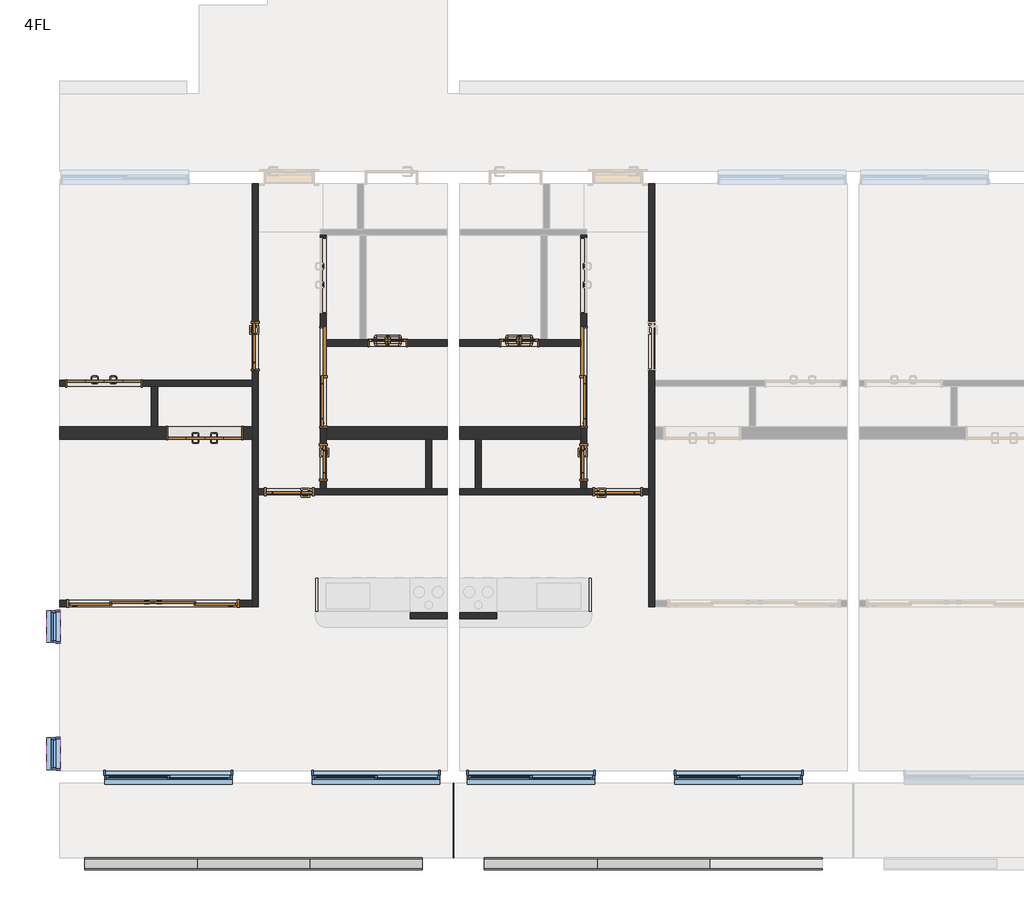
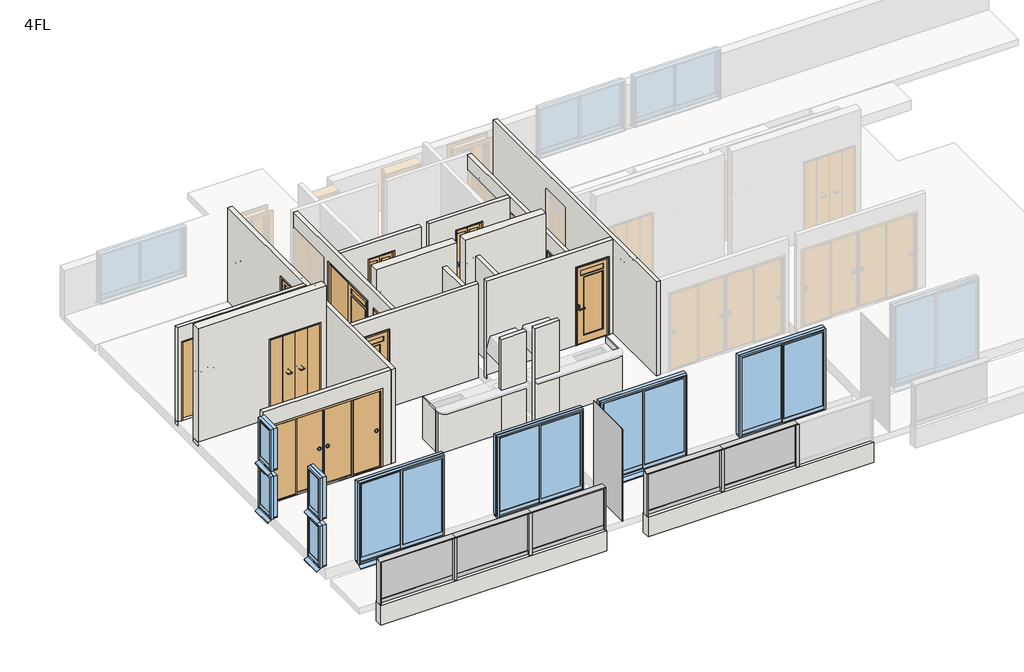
# One storey, part 1 of 3: 24 walls, 12 doors, 12 members, 8 windows, 6 plates.
"""IFC4 building model written with IfcOpenShell, lengths in millimetres."""

from ifc_helpers import new_model, si_unit, frame, origin, place, context, project, spatial, polyline, outline, extrude, faceted_brep, transform, mapped, element, save
from components import w1200h2000_6a144d60, w1200h2000_98cacc9b, w1600h2000_4c3c234a, w1600h2000_ca690e72, w2800h2000_670b855b, w600h2000_7f2747f4, w600h2000_6a266bef, w600h2000_94bb9c3c, w600h2000_8ea70a65, w800h2000_13e9f519, w800h2000_ccb03061, member_25x150_3f8205e2, member_25x150_f694351b, member_70x150_851c8a9b, plate_9f48129f, plate_365944b3, plate_cef4847d, window_2000x2000_f1ff98da, window_450x1000_e0a5e2da

model = new_model("IFC4")

# Units and contexts
model_context = context("Model", 3, world=origin())
ifc_project = project(units=[si_unit("LENGTHUNIT", "METRE", prefix="MILLI")], contexts=[model_context])

# Site, building, storey
site = spatial("IfcSite", under=ifc_project)
building = spatial("IfcBuilding", under=site)
storey = spatial("IfcBuildingStorey", under=building, Name="4FL", Elevation=10000.0)

# Doors
placement = place(None, origin())
w1200h2000_shape = w1200h2000_6a144d60(model_context)
element("IfcDoor", 1, ObjectType="木製折戸 : w1200h2000", at=placement, inside=storey, context=model_context, shape_type="MappedRepresentation", body=[
    mapped(w1200h2000_shape, transform((-10366.2187246, -9020.1171638, 10100.0), x_axis=(1.0, 0.0, 0.0), y_axis=(0.0, 1.0, 0.0), z_axis=(0.0, 0.0, 1.0))),
])
w1200h2000_2_shape = w1200h2000_98cacc9b(model_context)
element("IfcDoor", 2, ObjectType="木製折戸 : w1200h2000", at=placement, inside=storey, context=model_context, shape_type="MappedRepresentation", body=[
    mapped(w1200h2000_2_shape, transform((-8741.2187246, -9820.1171638, 10100.0), x_axis=(-1.0, 0.0, 0.0), y_axis=(0.0, -1.0, 0.0), z_axis=(0.0, 0.0, 1.0))),
])
w1600h2000_shape = w1600h2000_4c3c234a(model_context)
element("IfcDoor", 3, ObjectType="片引戸CL2017 : w1600h2000", at=placement, inside=storey, context=model_context, shape_type="MappedRepresentation", body=[
    mapped(w1600h2000_shape, transform((-6828.7187246, -8920.1171638, 10100.0), x_axis=(0.0, -1.0, 0.0), y_axis=(1.0, 0.0, 0.0), z_axis=(0.0, 0.0, 1.0))),
])
w1600h2000_2_shape = w1600h2000_ca690e72(model_context)
element("IfcDoor", 4, ObjectType="片引戸CL2017 : w1600h2000", at=placement, inside=storey, context=model_context, shape_type="MappedRepresentation", body=[
    mapped(w1600h2000_2_shape, transform((-2628.7187246, -8920.1171638, 10100.0), x_axis=(0.0, -1.0, 0.0), y_axis=(1.0, 0.0, 0.0), z_axis=(0.0, 0.0, 1.0))),
])
w2800h2000_shape = w2800h2000_670b855b(model_context)
element("IfcDoor", 5, ObjectType="引違い 4 枚 2 溝_襖 : w2800h2000", at=placement, inside=storey, context=model_context, shape_type="MappedRepresentation", body=[
    mapped(w2800h2000_shape, transform((-9584.2542286, -12570.1171638, 10100.0), x_axis=(-1.0, 0.0, 0.0), y_axis=(0.0, -1.0, 0.0), z_axis=(0.0, 0.0, 1.0))),
])
w600h2000_shape = w600h2000_7f2747f4(model_context)
element("IfcDoor", 6, ObjectType="片開戸CL2058 : w600h2000", at=placement, inside=storey, context=model_context, shape_type="MappedRepresentation", body=[
    mapped(w600h2000_shape, transform((-6828.7187246, -10295.1171638, 10100.0), x_axis=(0.0, -1.0, 0.0), y_axis=(1.0, 0.0, 0.0), z_axis=(0.0, 0.0, 1.0))),
])
w600h2000_2_shape = w600h2000_6a266bef(model_context)
element("IfcDoor", 7, ObjectType="浴室折戸 : w600h2000", at=placement, inside=storey, context=model_context, shape_type="MappedRepresentation", body=[
    mapped(w600h2000_2_shape, transform((-5788.7187246, -8370.1171638, 10100.0), x_axis=(1.0, 0.0, 0.0), y_axis=(0.0, 1.0, 0.0), z_axis=(0.0, 0.0, 1.0))),
])
w600h2000_3_shape = w600h2000_94bb9c3c(model_context)
element("IfcDoor", 8, ObjectType="浴室折戸 : w600h2000", at=placement, inside=storey, context=model_context, shape_type="MappedRepresentation", body=[
    mapped(w600h2000_3_shape, transform((-3668.7187246, -8370.1171638, 10100.0), x_axis=(-1.0, 0.0, 0.0), y_axis=(0.0, -1.0, 0.0), z_axis=(0.0, 0.0, 1.0))),
])
w600h2000_4_shape = w600h2000_8ea70a65(model_context)
element("IfcDoor", 9, ObjectType="片開戸CL2058 : w600h2000", at=placement, inside=storey, context=model_context, shape_type="MappedRepresentation", body=[
    mapped(w600h2000_4_shape, transform((-2628.7187246, -10295.1171638, 10100.0), x_axis=(0.0, -1.0, 0.0), y_axis=(1.0, 0.0, 0.0), z_axis=(0.0, 0.0, 1.0))),
])
w800h2000_shape = w800h2000_13e9f519(model_context)
element("IfcDoor", 10, ObjectType="片開戸CL2058 : w800h2000", at=placement, inside=storey, context=model_context, shape_type="MappedRepresentation", body=[
    mapped(w800h2000_shape, transform((-7928.7187246, -8420.1171638, 10100.0), x_axis=(0.0, -1.0, 0.0), y_axis=(1.0, 0.0, 0.0), z_axis=(0.0, 0.0, 1.0))),
])
element("IfcDoor", 11, ObjectType="片開戸CL2058 : w800h2000", at=placement, inside=storey, context=model_context, shape_type="MappedRepresentation", body=[
    mapped(w800h2000_shape, transform((-2078.7187246, -10770.1171638, 10100.0), x_axis=(1.0, 0.0, 0.0), y_axis=(0.0, 1.0, 0.0), z_axis=(0.0, 0.0, 1.0))),
])
w800h2000_2_shape = w800h2000_ccb03061(model_context)
element("IfcDoor", 12, ObjectType="片開戸CL2058 : w800h2000", at=placement, inside=storey, context=model_context, shape_type="MappedRepresentation", body=[
    mapped(w800h2000_2_shape, transform((-7378.7187246, -10770.1171638, 10100.0), x_axis=(-1.0, 0.0, 0.0), y_axis=(0.0, -1.0, 0.0), z_axis=(0.0, 0.0, 1.0))),
])

# Members
member_25x150_shape = member_25x150_3f8205e2(model_context)
element("IfcMember", 13, ObjectType="長方形のマリオン : 25x150", at=placement, inside=storey, context=model_context, shape_type="MappedRepresentation", body=[
    mapped(member_25x150_shape, transform((-5228.7187246, -16770.1171638, 10000.0), x_axis=(1.0, 0.0, 0.0), y_axis=(0.0, -1.0, 0.0), z_axis=(0.0, 0.0, -1.0))),
])
element("IfcMember", 14, ObjectType="長方形のマリオン : 25x150", at=placement, inside=storey, context=model_context, shape_type="MappedRepresentation", body=[
    mapped(member_25x150_shape, transform((-10678.7187246, -16770.1171638, 11075.0), x_axis=(-1.0, 0.0, 0.0), y_axis=(0.0, -1.0, 0.0), z_axis=(0.0, 0.0, 1.0))),
])
element("IfcMember", 15, ObjectType="長方形のマリオン : 25x150", at=placement, inside=storey, context=model_context, shape_type="MappedRepresentation", body=[
    mapped(member_25x150_shape, transform((-4228.7187246, -16770.1171638, 11075.0), x_axis=(-1.0, 0.0, 0.0), y_axis=(0.0, -1.0, 0.0), z_axis=(0.0, 0.0, 1.0))),
])
member_25x150_2_shape = member_25x150_f694351b(model_context)
element("IfcMember", 16, ObjectType="長方形のマリオン : 25x150", at=placement, inside=storey, context=model_context, shape_type="MappedRepresentation", body=[
    mapped(member_25x150_2_shape, transform((-5228.7187246, -16770.1171638, 11100.0), x_axis=(0.0, 0.0, 1.0), y_axis=(0.0, -1.0, 0.0), z_axis=(1.0, 0.0, 0.0))),
])
element("IfcMember", 17, ObjectType="長方形のマリオン : 25x150", at=placement, inside=storey, context=model_context, shape_type="MappedRepresentation", body=[
    mapped(member_25x150_2_shape, transform((-8862.052058, -16770.1171638, 11100.0), x_axis=(0.0, 0.0, 1.0), y_axis=(0.0, -1.0, 0.0), z_axis=(1.0, 0.0, 0.0))),
])
element("IfcMember", 18, ObjectType="長方形のマリオン : 25x150", at=placement, inside=storey, context=model_context, shape_type="MappedRepresentation", body=[
    mapped(member_25x150_2_shape, transform((-2412.052058, -16770.1171638, 11100.0), x_axis=(0.0, 0.0, 1.0), y_axis=(0.0, -1.0, 0.0), z_axis=(1.0, 0.0, 0.0))),
])
element("IfcMember", 19, ObjectType="長方形のマリオン : 25x150", at=placement, inside=storey, context=model_context, shape_type="MappedRepresentation", body=[
    mapped(member_25x150_2_shape, transform((-7045.3853913, -16770.1171638, 11100.0), x_axis=(0.0, 0.0, 1.0), y_axis=(0.0, -1.0, 0.0), z_axis=(1.0, 0.0, 0.0))),
])
element("IfcMember", 20, ObjectType="長方形のマリオン : 25x150", at=placement, inside=storey, context=model_context, shape_type="MappedRepresentation", body=[
    mapped(member_25x150_2_shape, transform((-595.3853913, -16770.1171638, 11100.0), x_axis=(0.0, 0.0, 1.0), y_axis=(0.0, -1.0, 0.0), z_axis=(1.0, 0.0, 0.0))),
])
member_70x150_shape = member_70x150_851c8a9b(model_context)
element("IfcMember", 21, ObjectType="長方形のマリオン : 70x150", at=placement, inside=storey, context=model_context, shape_type="MappedRepresentation", body=[
    mapped(member_70x150_shape, transform((-8862.052058, -16770.1171638, 10000.0), x_axis=(1.0, 0.0, 0.0), y_axis=(0.0, -1.0, 0.0), z_axis=(0.0, 0.0, -1.0))),
])
element("IfcMember", 22, ObjectType="長方形のマリオン : 70x150", at=placement, inside=storey, context=model_context, shape_type="MappedRepresentation", body=[
    mapped(member_70x150_shape, transform((-7045.3853913, -16770.1171638, 10000.0), x_axis=(1.0, 0.0, 0.0), y_axis=(0.0, -1.0, 0.0), z_axis=(0.0, 0.0, -1.0))),
])
element("IfcMember", 23, ObjectType="長方形のマリオン : 70x150", at=placement, inside=storey, context=model_context, shape_type="MappedRepresentation", body=[
    mapped(member_70x150_shape, transform((-2412.052058, -16770.1171638, 10000.0), x_axis=(1.0, 0.0, 0.0), y_axis=(0.0, -1.0, 0.0), z_axis=(0.0, 0.0, -1.0))),
])
element("IfcMember", 24, ObjectType="長方形のマリオン : 70x150", at=placement, inside=storey, context=model_context, shape_type="MappedRepresentation", body=[
    mapped(member_70x150_shape, transform((-595.3853913, -16770.1171638, 10000.0), x_axis=(1.0, 0.0, 0.0), y_axis=(0.0, -1.0, 0.0), z_axis=(0.0, 0.0, -1.0))),
])

# Plates
plate_shape = plate_9f48129f(model_context)
element("IfcPlate", 25, ObjectType="r パネル FIX 下框付 : 框 H100", at=placement, inside=storey, context=model_context, shape_type="MappedRepresentation", body=[
    mapped(plate_shape, transform((-9775.3853913, -16770.1171638, 10000.0), x_axis=(1.0, 0.0, 0.0), y_axis=(0.0, 1.0, 0.0), z_axis=(0.0, 0.0, 1.0))),
])
element("IfcPlate", 26, ObjectType="r パネル FIX 下框付 : 框 H100", at=placement, inside=storey, context=model_context, shape_type="MappedRepresentation", body=[
    mapped(plate_shape, transform((-6132.052058, -16770.1171638, 10000.0), x_axis=(1.0, 0.0, 0.0), y_axis=(0.0, 1.0, 0.0), z_axis=(0.0, 0.0, 1.0))),
])
element("IfcPlate", 27, ObjectType="r パネル FIX 下框付 : 框 H100", at=placement, inside=storey, context=model_context, shape_type="MappedRepresentation", body=[
    mapped(plate_shape, transform((-3325.3853913, -16770.1171638, 10000.0), x_axis=(1.0, 0.0, 0.0), y_axis=(0.0, 1.0, 0.0), z_axis=(0.0, 0.0, 1.0))),
])
plate_2_shape = plate_365944b3(model_context)
element("IfcPlate", 28, ObjectType="r パネル FIX 下框付 : 框 H100", at=placement, inside=storey, context=model_context, shape_type="MappedRepresentation", body=[
    mapped(plate_2_shape, transform((-7953.7187246, -16770.1171638, 10000.0), x_axis=(1.0, 0.0, 0.0), y_axis=(0.0, 1.0, 0.0), z_axis=(0.0, 0.0, 1.0))),
])
element("IfcPlate", 29, ObjectType="r パネル FIX 下框付 : 框 H100", at=placement, inside=storey, context=model_context, shape_type="MappedRepresentation", body=[
    mapped(plate_2_shape, transform((-1503.7187246, -16770.1171638, 10000.0), x_axis=(1.0, 0.0, 0.0), y_axis=(0.0, 1.0, 0.0), z_axis=(0.0, 0.0, 1.0))),
])
plate_3_shape = plate_cef4847d(model_context)
element("IfcPlate", 30, ObjectType="システム パネル : 標準", at=placement, inside=storey, context=model_context, shape_type="MappedRepresentation", body=[
    mapped(plate_3_shape, transform((-4728.7187246, -16070.1171638, 9950.0), x_axis=(0.0, -1.0, 0.0), y_axis=(1.0, 0.0, 0.0), z_axis=(0.0, 0.0, 1.0))),
])

# Walls
element("IfcWall", 31, ObjectType="(R)RC200", at=placement, inside=storey, context=model_context, shape_type="Brep", body=[
    faceted_brep([(-11078.7187246, -9920.1171638, 10000.0), (-7978.7187246, -9920.1171638, 10000.0), (-7978.7187246, -9920.1171638, 13000.0), (-11078.7187246, -9920.1171638, 13000.0), (-9361.2187246, -9920.1171638, 12120.0), (-8121.2187246, -9920.1171638, 12120.0), (-8121.2187246, -9920.1171638, 10100.0), (-9361.2187246, -9920.1171638, 10100.0), (-11078.7187246, -9720.1171638, 10000.0), (-11078.7187246, -9720.1171638, 13000.0), (-7978.7187246, -9720.1171638, 13000.0), (-7978.7187246, -9720.1171638, 10000.0), (-9503.7187246, -9720.1171638, 10000.0), (-9603.7187246, -9720.1171638, 10000.0), (-9361.2187246, -9720.1171638, 12120.0), (-9361.2187246, -9720.1171638, 10100.0), (-8121.2187246, -9720.1171638, 10100.0), (-8121.2187246, -9720.1171638, 12120.0)], [[[0, 1, 2, 3], [4, 5, 6, 7]], [[8, 9, 10, 11, 12, 13], [14, 15, 16, 17]], [[1, 0, 8, 13, 12, 11]], [[3, 2, 10, 9]], [[2, 1, 11, 10]], [[15, 14, 4, 7]], [[16, 15, 7, 6]], [[17, 16, 6, 5]], [[14, 17, 5, 4]], [[0, 3, 9, 8]]]),
])
element("IfcWall", 32, ObjectType="(R)RC200", at=placement, inside=storey, context=model_context, shape_type="Brep", body=[
    faceted_brep([(-6778.7187246, -9920.1171638, 10000.0), (-5178.7187246, -9920.1171638, 10000.0), (-5078.7187246, -9920.1171638, 10000.0), (-4828.7187246, -9920.1171638, 10000.0), (-4828.7187246, -9920.1171638, 13000.0), (-6778.7187246, -9920.1171638, 13000.0), (-6778.7187246, -9720.1171638, 10000.0), (-6778.7187246, -9720.1171638, 13000.0), (-4828.7187246, -9720.1171638, 13000.0), (-4828.7187246, -9720.1171638, 10000.0)], [[[0, 1, 2, 3, 4, 5]], [[6, 7, 8, 9]], [[3, 2, 1, 0, 6, 9]], [[5, 4, 8, 7]], [[0, 5, 7, 6]], [[4, 3, 9, 8]]]),
])
element("IfcWall", 33, ObjectType="(R)RC200", at=placement, inside=storey, context=model_context, shape_type="Brep", body=[
    faceted_brep([(-2678.7187246, -9720.1171638, 10000.0), (-4628.7187246, -9720.1171638, 10000.0), (-4628.7187246, -9720.1171638, 13000.0), (-2678.7187246, -9720.1171638, 13000.0), (-2678.7187246, -9920.1171638, 10000.0), (-2678.7187246, -9920.1171638, 13000.0), (-4628.7187246, -9920.1171638, 13000.0), (-4628.7187246, -9920.1171638, 10000.0), (-4378.7187246, -9920.1171638, 10000.0), (-4278.7187246, -9920.1171638, 10000.0)], [[[0, 1, 2, 3]], [[4, 5, 6, 7, 8, 9]], [[1, 0, 4, 9, 8, 7]], [[3, 2, 6, 5]], [[0, 3, 5, 4]], [[2, 1, 7, 6]]]),
])
element("IfcWall", 34, ObjectType="(R)RC200", at=placement, inside=storey, context=model_context, shape_type="SweptSolid", body=[
    extrude(outline(polyline([(-5228.7187246, -16870.1171638), (-10678.7187246, -16870.1171638), (-10678.7187246, -16670.1171638), (-5228.7187246, -16670.1171638), (-5228.7187246, -16870.1171638)])), frame((0.0, 0.0, 9500.0), z_axis=(0.0, 0.0, 1.0), x_axis=(1.0, 0.0, 0.0)), (0.0, 0.0, 1.0), 500.0),
])
element("IfcWall", 35, ObjectType="(R)RC200", at=placement, inside=storey, context=model_context, shape_type="SweptSolid", body=[
    extrude(outline(polyline([(1221.2812754, -16870.1171638), (-4228.7187246, -16870.1171638), (-4228.7187246, -16670.1171638), (1221.2812754, -16670.1171638), (1221.2812754, -16870.1171638)])), frame((0.0, 0.0, 9500.0), z_axis=(0.0, 0.0, 1.0), x_axis=(1.0, 0.0, 0.0)), (0.0, 0.0, 1.0), 500.0),
])
element("IfcWall", 36, ObjectType="(F)30", at=placement, inside=storey, context=model_context, shape_type="SweptSolid", body=[
    extrude(outline(polyline([(-6951.1124404, -12720.1171638), (-6951.1124404, -12165.1171638), (-6921.1124404, -12165.1171638), (-6921.1124404, -12720.1171638), (-6951.1124404, -12720.1171638)])), frame((0.0, 0.0, 10100.0), z_axis=(0.0, 0.0, 1.0), x_axis=(1.0, 0.0, 0.0)), (0.0, 0.0, 1.0), 1060.0),
])
element("IfcWall", 37, ObjectType="(F)30", at=placement, inside=storey, context=model_context, shape_type="SweptSolid", body=[
    extrude(outline(polyline([(-2536.3250089, -12720.1171638), (-2536.3250089, -12165.1171638), (-2506.3250089, -12165.1171638), (-2506.3250089, -12720.1171638), (-2536.3250089, -12720.1171638)])), frame((0.0, 0.0, 10100.0), z_axis=(0.0, 0.0, 1.0), x_axis=(1.0, 0.0, 0.0)), (0.0, 0.0, 1.0), 1060.0),
])
element("IfcWall", 38, ObjectType="(L1)LGS100", at=placement, inside=storey, context=model_context, shape_type="Brep", body=[
    faceted_brep([(-11078.7187246, -9070.1171638, 10000.0), (-9603.7187246, -9070.1171638, 10000.0), (-9503.7187246, -9070.1171638, 10000.0), (-7978.7187246, -9070.1171638, 10000.0), (-7978.7187246, -9070.1171638, 12500.0), (-9503.7187246, -9070.1171638, 12500.0), (-9603.7187246, -9070.1171638, 12500.0), (-11078.7187246, -9070.1171638, 12500.0), (-9746.2187246, -9070.1171638, 12120.0), (-9746.2187246, -9070.1171638, 10100.0), (-10986.2187246, -9070.1171638, 10100.0), (-10986.2187246, -9070.1171638, 12120.0), (-7978.7187246, -8970.1171638, 10000.0), (-11078.7187246, -8970.1171638, 10000.0), (-11078.7187246, -8970.1171638, 12500.0), (-7978.7187246, -8970.1171638, 12500.0), (-9746.2187246, -8970.1171638, 10100.0), (-9746.2187246, -8970.1171638, 12120.0), (-10986.2187246, -8970.1171638, 12120.0), (-10986.2187246, -8970.1171638, 10100.0)], [[[0, 1, 2, 3, 4, 5, 6, 7], [8, 9, 10, 11]], [[12, 13, 14, 15], [16, 17, 18, 19]], [[3, 2, 1, 0, 13, 12]], [[7, 6, 5, 4, 15, 14]], [[4, 3, 12, 15]], [[8, 17, 16, 9]], [[9, 16, 19, 10]], [[17, 8, 11, 18]], [[18, 11, 10, 19]], [[0, 7, 14, 13]]]),
])
element("IfcWall", 39, ObjectType="(L1)LGS100", at=placement, inside=storey, context=model_context, shape_type="SweptSolid", body=[
    extrude(outline(polyline([(-9503.7187246, -9070.1171638), (-9503.7187246, -9720.1171638), (-9603.7187246, -9720.1171638), (-9603.7187246, -9070.1171638), (-9503.7187246, -9070.1171638)])), frame((0.0, 0.0, 10000.0), z_axis=(0.0, 0.0, 1.0), x_axis=(1.0, 0.0, 0.0)), (0.0, 0.0, 1.0), 2500.0),
])
element("IfcWall", 40, ObjectType="(L1)LGS100", at=placement, inside=storey, context=model_context, shape_type="Brep", body=[
    faceted_brep([(-7878.7187246, -12620.1171638, 10000.0), (-7878.7187246, -10820.1171638, 10000.0), (-7878.7187246, -10720.1171638, 10000.0), (-7878.7187246, -5800.1171638, 10000.0), (-7878.7187246, -5800.1171638, 12500.0), (-7878.7187246, -10720.1171638, 12500.0), (-7878.7187246, -10820.1171638, 12500.0), (-7878.7187246, -12620.1171638, 12500.0), (-7878.7187246, -8820.1171638, 10100.0), (-7878.7187246, -8820.1171638, 12100.0), (-7878.7187246, -8020.1171638, 12100.0), (-7878.7187246, -8020.1171638, 10100.0), (-7978.7187246, -12620.1171638, 10000.0), (-7978.7187246, -12620.1171638, 12500.0), (-7978.7187246, -12520.1171638, 12500.0), (-7978.7187246, -9070.1171638, 12500.0), (-7978.7187246, -8970.1171638, 12500.0), (-7978.7187246, -5800.1171638, 12500.0), (-7978.7187246, -5800.1171638, 10000.0), (-7978.7187246, -8970.1171638, 10000.0), (-7978.7187246, -9070.1171638, 10000.0), (-7978.7187246, -9720.1171638, 10000.0), (-7978.7187246, -9920.1171638, 10000.0), (-7978.7187246, -12520.1171638, 10000.0), (-7978.7187246, -8820.1171638, 10100.0), (-7978.7187246, -8020.1171638, 10100.0), (-7978.7187246, -8020.1171638, 12100.0), (-7978.7187246, -8820.1171638, 12100.0)], [[[0, 1, 2, 3, 4, 5, 6, 7], [8, 9, 10, 11]], [[12, 13, 14, 15, 16, 17, 18, 19, 20, 21, 22, 23], [24, 25, 26, 27]], [[3, 2, 1, 0, 12, 23, 22, 21, 20, 19, 18]], [[7, 6, 5, 4, 17, 16, 15, 14, 13]], [[0, 7, 13, 12]], [[9, 8, 24, 27]], [[10, 9, 27, 26]], [[11, 10, 26, 25]], [[8, 11, 25, 24]], [[4, 3, 18, 17]]]),
])
element("IfcWall", 41, ObjectType="(L1)LGS100", at=placement, inside=storey, context=model_context, shape_type="Brep", body=[
    faceted_brep([(-6778.7187246, -8420.1171638, 10000.0), (-4828.7187246, -8420.1171638, 10000.0), (-4828.7187246, -8420.1171638, 12500.0), (-6778.7187246, -8420.1171638, 12500.0), (-5468.7187246, -8420.1171638, 12120.0), (-5468.7187246, -8420.1171638, 10100.0), (-6108.7187246, -8420.1171638, 10100.0), (-6108.7187246, -8420.1171638, 12120.0), (-6778.7187246, -8320.1171638, 10000.0), (-6778.7187246, -8320.1171638, 12500.0), (-6238.7187246, -8320.1171638, 12500.0), (-6138.7187246, -8320.1171638, 12500.0), (-4828.7187246, -8320.1171638, 12500.0), (-4828.7187246, -8320.1171638, 10000.0), (-6138.7187246, -8320.1171638, 10000.0), (-6238.7187246, -8320.1171638, 10000.0), (-5468.7187246, -8320.1171638, 12120.0), (-6108.7187246, -8320.1171638, 12120.0), (-6108.7187246, -8320.1171638, 10100.0), (-5468.7187246, -8320.1171638, 10100.0)], [[[0, 1, 2, 3], [4, 5, 6, 7]], [[8, 9, 10, 11, 12, 13, 14, 15], [16, 17, 18, 19]], [[1, 0, 8, 15, 14, 13]], [[3, 2, 12, 11, 10, 9]], [[0, 3, 9, 8]], [[5, 4, 16, 19]], [[6, 5, 19, 18]], [[7, 6, 18, 17]], [[4, 7, 17, 16]], [[2, 1, 13, 12]]]),
])
element("IfcWall", 42, ObjectType="(L1)LGS100", at=placement, inside=storey, context=model_context, shape_type="Brep", body=[
    faceted_brep([(-6778.7187246, -10720.1171638, 10000.0), (-6778.7187246, -9920.1171638, 10000.0), (-6778.7187246, -9720.1171638, 10000.0), (-6778.7187246, -8420.1171638, 10000.0), (-6778.7187246, -8320.1171638, 10000.0), (-6778.7187246, -6630.1171638, 10000.0), (-6778.7187246, -6630.1171638, 12500.0), (-6778.7187246, -8320.1171638, 12500.0), (-6778.7187246, -8420.1171638, 12500.0), (-6778.7187246, -10720.1171638, 12500.0), (-6778.7187246, -10595.1171638, 10100.0), (-6778.7187246, -10595.1171638, 12100.0), (-6778.7187246, -9995.1171638, 12100.0), (-6778.7187246, -9995.1171638, 10100.0), (-6778.7187246, -6660.1171638, 10100.0), (-6778.7187246, -7900.1171638, 10100.0), (-6778.7187246, -7900.1171638, 12120.0), (-6778.7187246, -6660.1171638, 12120.0), (-6778.7187246, -9745.1171638, 10100.0), (-6778.7187246, -9745.1171638, 12140.0), (-6778.7187246, -8095.1171638, 12140.0), (-6778.7187246, -8095.1171638, 10100.0), (-6878.7187246, -6630.1171638, 10000.0), (-6878.7187246, -10720.1171638, 10000.0), (-6878.7187246, -10720.1171638, 12500.0), (-6878.7187246, -6630.1171638, 12500.0), (-6878.7187246, -10595.1171638, 10100.0), (-6878.7187246, -9995.1171638, 10100.0), (-6878.7187246, -9995.1171638, 12100.0), (-6878.7187246, -10595.1171638, 12100.0), (-6878.7187246, -7900.1171638, 10100.0), (-6878.7187246, -6660.1171638, 10100.0), (-6878.7187246, -6660.1171638, 12120.0), (-6878.7187246, -7900.1171638, 12120.0), (-6878.7187246, -9745.1171638, 10100.0), (-6878.7187246, -8095.1171638, 10100.0), (-6878.7187246, -8095.1171638, 12140.0), (-6878.7187246, -9745.1171638, 12140.0)], [[[0, 1, 2, 3, 4, 5, 6, 7, 8, 9], [10, 11, 12, 13], [14, 15, 16, 17], [18, 19, 20, 21]], [[22, 23, 24, 25], [26, 27, 28, 29], [30, 31, 32, 33], [34, 35, 36, 37]], [[5, 4, 3, 2, 1, 0, 23, 22]], [[9, 8, 7, 6, 25, 24]], [[0, 9, 24, 23]], [[11, 10, 26, 29]], [[12, 11, 29, 28]], [[13, 12, 28, 27]], [[10, 13, 27, 26]], [[14, 31, 30, 15]], [[15, 30, 33, 16]], [[16, 33, 32, 17]], [[19, 18, 34, 37]], [[20, 19, 37, 36]], [[21, 20, 36, 35]], [[18, 21, 35, 34]], [[31, 14, 17, 32]], [[6, 5, 22, 25]]]),
])
element("IfcWall", 43, ObjectType="(L1)LGS100", at=placement, inside=storey, context=model_context, shape_type="SweptSolid", body=[
    extrude(outline(polyline([(-5078.7187246, -9920.1171638), (-5078.7187246, -10720.1171638), (-5178.7187246, -10720.1171638), (-5178.7187246, -9920.1171638), (-5078.7187246, -9920.1171638)])), frame((0.0, 0.0, 10000.0), z_axis=(0.0, 0.0, 1.0), x_axis=(1.0, 0.0, 0.0)), (0.0, 0.0, 1.0), 2500.0),
])
element("IfcWall", 44, ObjectType="(L1)LGS100", at=placement, inside=storey, context=model_context, shape_type="Brep", body=[
    faceted_brep([(-7878.7187246, -10820.1171638, 10000.0), (-4828.7187246, -10820.1171638, 10000.0), (-4828.7187246, -10820.1171638, 12500.0), (-7878.7187246, -10820.1171638, 12500.0), (-7778.7187246, -10820.1171638, 10100.0), (-7778.7187246, -10820.1171638, 12100.0), (-6978.7187246, -10820.1171638, 12100.0), (-6978.7187246, -10820.1171638, 10100.0), (-4828.7187246, -10720.1171638, 10000.0), (-5078.7187246, -10720.1171638, 10000.0), (-5178.7187246, -10720.1171638, 10000.0), (-6778.7187246, -10720.1171638, 10000.0), (-6878.7187246, -10720.1171638, 10000.0), (-7878.7187246, -10720.1171638, 10000.0), (-7878.7187246, -10720.1171638, 12500.0), (-6878.7187246, -10720.1171638, 12500.0), (-6778.7187246, -10720.1171638, 12500.0), (-5178.7187246, -10720.1171638, 12500.0), (-5078.7187246, -10720.1171638, 12500.0), (-4828.7187246, -10720.1171638, 12500.0), (-7778.7187246, -10720.1171638, 12100.0), (-7778.7187246, -10720.1171638, 10100.0), (-6978.7187246, -10720.1171638, 10100.0), (-6978.7187246, -10720.1171638, 12100.0)], [[[0, 1, 2, 3], [4, 5, 6, 7]], [[8, 9, 10, 11, 12, 13, 14, 15, 16, 17, 18, 19], [20, 21, 22, 23]], [[1, 0, 13, 12, 11, 10, 9, 8]], [[3, 2, 19, 18, 17, 16, 15, 14]], [[0, 3, 14, 13]], [[4, 21, 20, 5]], [[5, 20, 23, 6]], [[6, 23, 22, 7]], [[21, 4, 7, 22]], [[2, 1, 8, 19]]]),
])
element("IfcWall", 45, ObjectType="(L1)LGS100", at=placement, inside=storey, context=model_context, shape_type="SweptSolid", body=[
    extrude(outline(polyline([(10000.0, -11078.7187246), (10000.0, -7978.7187246), (12500.0, -7978.7187246), (12500.0, -11078.7187246), (10000.0, -11078.7187246)]), holes=[polyline([(12100.0, -10978.7187246), (12100.0, -8178.7187246), (10100.0, -8178.7187246), (10100.0, -10978.7187246), (12100.0, -10978.7187246)])]), frame((0.0, -12620.1171638, 0.0), z_axis=(0.0, 1.0, 0.0), x_axis=(0.0, 0.0, 1.0)), (0.0, 0.0, 1.0), 100.0),
])
element("IfcWall", 46, ObjectType="(L1)LGS100", at=placement, inside=storey, context=model_context, shape_type="Brep", body=[
    faceted_brep([(-1478.7187246, -12620.1171638, 10000.0), (-1478.7187246, -12520.1171638, 10000.0), (-1478.7187246, -9920.1171638, 10000.0), (-1478.7187246, -9720.1171638, 10000.0), (-1478.7187246, -9070.1171638, 10000.0), (-1478.7187246, -8970.1171638, 10000.0), (-1478.7187246, -5800.1171638, 10000.0), (-1478.7187246, -5800.1171638, 12500.0), (-1478.7187246, -8970.1171638, 12500.0), (-1478.7187246, -9070.1171638, 12500.0), (-1478.7187246, -12520.1171638, 12500.0), (-1478.7187246, -12620.1171638, 12500.0), (-1478.7187246, -8820.1171638, 10100.0), (-1478.7187246, -8820.1171638, 12100.0), (-1478.7187246, -8020.1171638, 12100.0), (-1478.7187246, -8020.1171638, 10100.0), (-1578.7187246, -12620.1171638, 10000.0), (-1578.7187246, -12620.1171638, 12500.0), (-1578.7187246, -10820.1171638, 12500.0), (-1578.7187246, -10720.1171638, 12500.0), (-1578.7187246, -5800.1171638, 12500.0), (-1578.7187246, -5800.1171638, 10000.0), (-1578.7187246, -10720.1171638, 10000.0), (-1578.7187246, -10820.1171638, 10000.0), (-1578.7187246, -8820.1171638, 10100.0), (-1578.7187246, -8020.1171638, 10100.0), (-1578.7187246, -8020.1171638, 12100.0), (-1578.7187246, -8820.1171638, 12100.0)], [[[0, 1, 2, 3, 4, 5, 6, 7, 8, 9, 10, 11], [12, 13, 14, 15]], [[16, 17, 18, 19, 20, 21, 22, 23], [24, 25, 26, 27]], [[6, 5, 4, 3, 2, 1, 0, 16, 23, 22, 21]], [[11, 10, 9, 8, 7, 20, 19, 18, 17]], [[0, 11, 17, 16]], [[13, 12, 24, 27]], [[14, 13, 27, 26]], [[15, 14, 26, 25]], [[12, 15, 25, 24]], [[7, 6, 21, 20]]]),
])
element("IfcWall", 47, ObjectType="(L1)LGS100", at=placement, inside=storey, context=model_context, shape_type="Brep", body=[
    faceted_brep([(-2678.7187246, -8320.1171638, 10000.0), (-3218.7187246, -8320.1171638, 10000.0), (-3318.7187246, -8320.1171638, 10000.0), (-4628.7187246, -8320.1171638, 10000.0), (-4628.7187246, -8320.1171638, 12500.0), (-3318.7187246, -8320.1171638, 12500.0), (-3218.7187246, -8320.1171638, 12500.0), (-2678.7187246, -8320.1171638, 12500.0), (-3988.7187246, -8320.1171638, 12120.0), (-3988.7187246, -8320.1171638, 10100.0), (-3348.7187246, -8320.1171638, 10100.0), (-3348.7187246, -8320.1171638, 12120.0), (-2678.7187246, -8420.1171638, 10000.0), (-2678.7187246, -8420.1171638, 12500.0), (-4628.7187246, -8420.1171638, 12500.0), (-4628.7187246, -8420.1171638, 10000.0), (-3988.7187246, -8420.1171638, 12120.0), (-3348.7187246, -8420.1171638, 12120.0), (-3348.7187246, -8420.1171638, 10100.0), (-3988.7187246, -8420.1171638, 10100.0)], [[[0, 1, 2, 3, 4, 5, 6, 7], [8, 9, 10, 11]], [[12, 13, 14, 15], [16, 17, 18, 19]], [[3, 2, 1, 0, 12, 15]], [[7, 6, 5, 4, 14, 13]], [[0, 7, 13, 12]], [[9, 8, 16, 19]], [[10, 9, 19, 18]], [[11, 10, 18, 17]], [[8, 11, 17, 16]], [[4, 3, 15, 14]]]),
])
element("IfcWall", 48, ObjectType="(L1)LGS100", at=placement, inside=storey, context=model_context, shape_type="Brep", body=[
    faceted_brep([(-2578.7187246, -10720.1171638, 10000.0), (-2578.7187246, -6630.1171638, 10000.0), (-2578.7187246, -6630.1171638, 12500.0), (-2578.7187246, -10720.1171638, 12500.0), (-2578.7187246, -10595.1171638, 10100.0), (-2578.7187246, -10595.1171638, 12100.0), (-2578.7187246, -9995.1171638, 12100.0), (-2578.7187246, -9995.1171638, 10100.0), (-2578.7187246, -6660.1171638, 10100.0), (-2578.7187246, -7900.1171638, 10100.0), (-2578.7187246, -7900.1171638, 12120.0), (-2578.7187246, -6660.1171638, 12120.0), (-2578.7187246, -9745.1171638, 10100.0), (-2578.7187246, -9745.1171638, 12140.0), (-2578.7187246, -8095.1171638, 12140.0), (-2578.7187246, -8095.1171638, 10100.0), (-2678.7187246, -6630.1171638, 10000.0), (-2678.7187246, -8320.1171638, 10000.0), (-2678.7187246, -8420.1171638, 10000.0), (-2678.7187246, -9720.1171638, 10000.0), (-2678.7187246, -9920.1171638, 10000.0), (-2678.7187246, -10720.1171638, 10000.0), (-2678.7187246, -10720.1171638, 12500.0), (-2678.7187246, -8420.1171638, 12500.0), (-2678.7187246, -8320.1171638, 12500.0), (-2678.7187246, -6630.1171638, 12500.0), (-2678.7187246, -10595.1171638, 10100.0), (-2678.7187246, -9995.1171638, 10100.0), (-2678.7187246, -9995.1171638, 12100.0), (-2678.7187246, -10595.1171638, 12100.0), (-2678.7187246, -7900.1171638, 10100.0), (-2678.7187246, -6660.1171638, 10100.0), (-2678.7187246, -6660.1171638, 12120.0), (-2678.7187246, -7900.1171638, 12120.0), (-2678.7187246, -9745.1171638, 10100.0), (-2678.7187246, -8095.1171638, 10100.0), (-2678.7187246, -8095.1171638, 12140.0), (-2678.7187246, -9745.1171638, 12140.0)], [[[0, 1, 2, 3], [4, 5, 6, 7], [8, 9, 10, 11], [12, 13, 14, 15]], [[16, 17, 18, 19, 20, 21, 22, 23, 24, 25], [26, 27, 28, 29], [30, 31, 32, 33], [34, 35, 36, 37]], [[1, 0, 21, 20, 19, 18, 17, 16]], [[3, 2, 25, 24, 23, 22]], [[0, 3, 22, 21]], [[5, 4, 26, 29]], [[6, 5, 29, 28]], [[7, 6, 28, 27]], [[4, 7, 27, 26]], [[8, 31, 30, 9]], [[9, 30, 33, 10]], [[10, 33, 32, 11]], [[13, 12, 34, 37]], [[14, 13, 37, 36]], [[15, 14, 36, 35]], [[12, 15, 35, 34]], [[31, 8, 11, 32]], [[2, 1, 16, 25]]]),
])
element("IfcWall", 49, ObjectType="(L1)LGS100", at=placement, inside=storey, context=model_context, shape_type="SweptSolid", body=[
    extrude(outline(polyline([(-4278.7187246, -9920.1171638), (-4278.7187246, -10720.1171638), (-4378.7187246, -10720.1171638), (-4378.7187246, -9920.1171638), (-4278.7187246, -9920.1171638)])), frame((0.0, 0.0, 10000.0), z_axis=(0.0, 0.0, 1.0), x_axis=(1.0, 0.0, 0.0)), (0.0, 0.0, 1.0), 2500.0),
])
element("IfcWall", 50, ObjectType="(L1)LGS100", at=placement, inside=storey, context=model_context, shape_type="Brep", body=[
    faceted_brep([(-1578.7187246, -10720.1171638, 10000.0), (-2578.7187246, -10720.1171638, 10000.0), (-2678.7187246, -10720.1171638, 10000.0), (-4278.7187246, -10720.1171638, 10000.0), (-4378.7187246, -10720.1171638, 10000.0), (-4628.7187246, -10720.1171638, 10000.0), (-4628.7187246, -10720.1171638, 12500.0), (-4378.7187246, -10720.1171638, 12500.0), (-4278.7187246, -10720.1171638, 12500.0), (-2678.7187246, -10720.1171638, 12500.0), (-2578.7187246, -10720.1171638, 12500.0), (-1578.7187246, -10720.1171638, 12500.0), (-1678.7187246, -10720.1171638, 10100.0), (-1678.7187246, -10720.1171638, 12100.0), (-2478.7187246, -10720.1171638, 12100.0), (-2478.7187246, -10720.1171638, 10100.0), (-4628.7187246, -10820.1171638, 10000.0), (-1578.7187246, -10820.1171638, 10000.0), (-1578.7187246, -10820.1171638, 12500.0), (-4628.7187246, -10820.1171638, 12500.0), (-1678.7187246, -10820.1171638, 12100.0), (-1678.7187246, -10820.1171638, 10100.0), (-2478.7187246, -10820.1171638, 10100.0), (-2478.7187246, -10820.1171638, 12100.0)], [[[0, 1, 2, 3, 4, 5, 6, 7, 8, 9, 10, 11], [12, 13, 14, 15]], [[16, 17, 18, 19], [20, 21, 22, 23]], [[5, 4, 3, 2, 1, 0, 17, 16]], [[11, 10, 9, 8, 7, 6, 19, 18]], [[0, 11, 18, 17]], [[12, 21, 20, 13]], [[13, 20, 23, 14]], [[14, 23, 22, 15]], [[21, 12, 15, 22]], [[6, 5, 16, 19]]]),
])
element("IfcWall", 51, ObjectType="(L1)LGS100", at=placement, inside=storey, context=model_context, shape_type="Brep", body=[
    faceted_brep([(-4828.7187246, -12720.1171638, 10000.0), (-5428.7187246, -12720.1171638, 10000.0), (-5428.7187246, -12720.1171638, 11160.0), (-5428.7187246, -12720.1171638, 12500.0), (-4828.7187246, -12720.1171638, 12500.0), (-4828.7187246, -12820.1171638, 10000.0), (-4828.7187246, -12820.1171638, 12500.0), (-5428.7187246, -12820.1171638, 12500.0), (-5428.7187246, -12820.1171638, 11160.0), (-5428.7187246, -12820.1171638, 10000.0)], [[[0, 1, 2, 3, 4]], [[5, 6, 7, 8, 9]], [[1, 0, 5, 9]], [[3, 2, 1, 9, 8, 7]], [[4, 3, 7, 6]], [[0, 4, 6, 5]]]),
])
element("IfcWall", 52, ObjectType="(L1)LGS100", at=placement, inside=storey, context=model_context, shape_type="Brep", body=[
    faceted_brep([(-6951.1124404, -12820.1171638, 10000.0), (-5428.7187246, -12820.1171638, 10000.0), (-5428.7187246, -12820.1171638, 11160.0), (-6951.1124404, -12820.1171638, 11160.0), (-6951.1124404, -12720.1171638, 10000.0), (-6951.1124404, -12720.1171638, 10100.0), (-6951.1124404, -12720.1171638, 11160.0), (-6921.1124404, -12720.1171638, 11160.0), (-5428.7187246, -12720.1171638, 11160.0), (-5428.7187246, -12720.1171638, 10000.0)], [[[0, 1, 2, 3]], [[4, 5, 6, 7, 8, 9]], [[1, 0, 4, 9]], [[2, 1, 9, 8]], [[3, 2, 8, 7, 6]], [[0, 3, 6, 5, 4]]]),
])
element("IfcWall", 53, ObjectType="(L1)LGS100", at=placement, inside=storey, context=model_context, shape_type="Brep", body=[
    faceted_brep([(-4628.7187246, -12820.1171638, 10000.0), (-4028.7187246, -12820.1171638, 10000.0), (-4028.7187246, -12820.1171638, 11160.0), (-4028.7187246, -12820.1171638, 12500.0), (-4628.7187246, -12820.1171638, 12500.0), (-4628.7187246, -12720.1171638, 10000.0), (-4628.7187246, -12720.1171638, 12500.0), (-4028.7187246, -12720.1171638, 12500.0), (-4028.7187246, -12720.1171638, 11160.0), (-4028.7187246, -12720.1171638, 10000.0)], [[[0, 1, 2, 3, 4]], [[5, 6, 7, 8, 9]], [[1, 0, 5, 9]], [[3, 2, 1, 9, 8, 7]], [[4, 3, 7, 6]], [[0, 4, 6, 5]]]),
])
element("IfcWall", 54, ObjectType="(L1)LGS100", at=placement, inside=storey, context=model_context, shape_type="Brep", body=[
    faceted_brep([(-2506.3250089, -12720.1171638, 10000.0), (-4028.7187246, -12720.1171638, 10000.0), (-4028.7187246, -12720.1171638, 11160.0), (-2536.3250089, -12720.1171638, 11160.0), (-2506.3250089, -12720.1171638, 11160.0), (-2506.3250089, -12720.1171638, 10100.0), (-2506.3250089, -12820.1171638, 10000.0), (-2506.3250089, -12820.1171638, 11160.0), (-4028.7187246, -12820.1171638, 11160.0), (-4028.7187246, -12820.1171638, 10000.0)], [[[0, 1, 2, 3, 4, 5]], [[6, 7, 8, 9]], [[1, 0, 6, 9]], [[2, 1, 9, 8]], [[4, 3, 2, 8, 7]], [[0, 5, 4, 7, 6]]]),
])

# Windows
window_2000x2000_shape = window_2000x2000_f1ff98da(model_context)
element("IfcWindow", 55, ObjectType="鋼製_一般枠_引違い-二枚 : 2000x2000", at=placement, inside=storey, context=model_context, shape_type="MappedRepresentation", body=[
    mapped(window_2000x2000_shape, transform((-9328.7187246, -15370.1171638, 9200.0), x_axis=(-1.0, 0.0, 0.0), y_axis=(0.0, -1.0, 0.0), z_axis=(0.0, 0.0, 1.0))),
])
element("IfcWindow", 56, ObjectType="鋼製_一般枠_引違い-二枚 : 2000x2000", at=placement, inside=storey, context=model_context, shape_type="MappedRepresentation", body=[
    mapped(window_2000x2000_shape, transform((-5978.7187246, -15370.1171638, 9200.0), x_axis=(-1.0, 0.0, 0.0), y_axis=(0.0, -1.0, 0.0), z_axis=(0.0, 0.0, 1.0))),
])
element("IfcWindow", 57, ObjectType="鋼製_一般枠_引違い-二枚 : 2000x2000", at=placement, inside=storey, context=model_context, shape_type="MappedRepresentation", body=[
    mapped(window_2000x2000_shape, transform((-128.7187246, -15370.1171638, 9200.0), x_axis=(-1.0, 0.0, 0.0), y_axis=(0.0, -1.0, 0.0), z_axis=(0.0, 0.0, 1.0))),
])
element("IfcWindow", 58, ObjectType="鋼製_一般枠_引違い-二枚 : 2000x2000", at=placement, inside=storey, context=model_context, shape_type="MappedRepresentation", body=[
    mapped(window_2000x2000_shape, transform((-3478.7187246, -15370.1171638, 9200.0), x_axis=(-1.0, 0.0, 0.0), y_axis=(0.0, -1.0, 0.0), z_axis=(0.0, 0.0, 1.0))),
])
window_450x1000_shape = window_450x1000_e0a5e2da(model_context)
element("IfcWindow", 59, ObjectType="鋼製_一般枠_嵌殺し : 450x1000", at=placement, inside=storey, context=model_context, shape_type="MappedRepresentation", body=[
    mapped(window_450x1000_shape, transform((-11178.7187246, -14995.1171638, 9010.0), x_axis=(0.0, 1.0, 0.0), y_axis=(-1.0, 0.0, 0.0), z_axis=(0.0, 0.0, 1.0))),
])
element("IfcWindow", 60, ObjectType="鋼製_一般枠_嵌殺し : 450x1000", at=placement, inside=storey, context=model_context, shape_type="MappedRepresentation", body=[
    mapped(window_450x1000_shape, transform((-11178.7187246, -12945.1171638, 9010.0), x_axis=(0.0, 1.0, 0.0), y_axis=(-1.0, 0.0, 0.0), z_axis=(0.0, 0.0, 1.0))),
])
element("IfcWindow", 61, ObjectType="鋼製_一般枠_嵌殺し : 450x1000", at=placement, inside=storey, context=model_context, shape_type="MappedRepresentation", body=[
    mapped(window_450x1000_shape, transform((-11178.7187246, -14995.1171638, 10230.0), x_axis=(0.0, 1.0, 0.0), y_axis=(-1.0, 0.0, 0.0), z_axis=(0.0, 0.0, 1.0))),
])
element("IfcWindow", 62, ObjectType="鋼製_一般枠_嵌殺し : 450x1000", at=placement, inside=storey, context=model_context, shape_type="MappedRepresentation", body=[
    mapped(window_450x1000_shape, transform((-11178.7187246, -12945.1171638, 10230.0), x_axis=(0.0, 1.0, 0.0), y_axis=(-1.0, 0.0, 0.0), z_axis=(0.0, 0.0, 1.0))),
])

save(model, "model.ifc")
